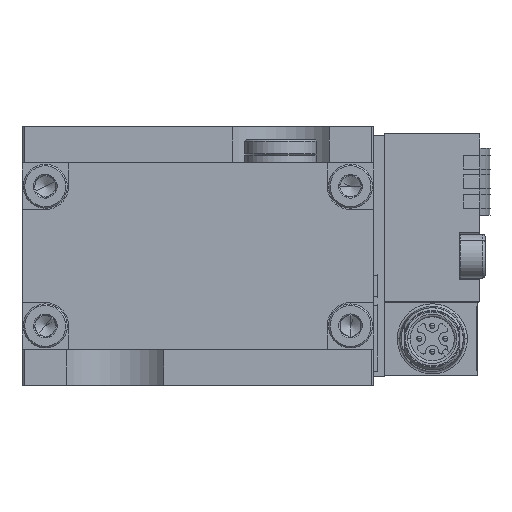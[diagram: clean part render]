
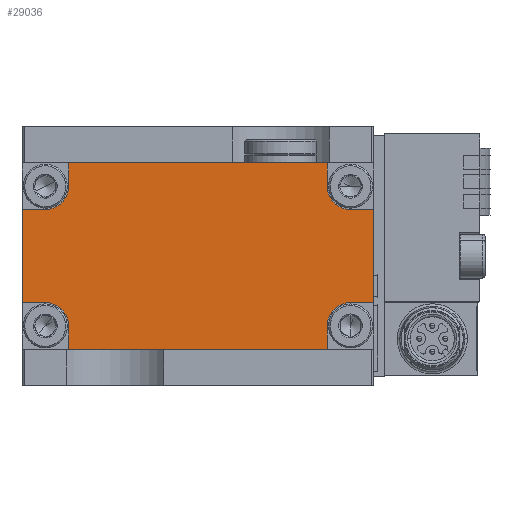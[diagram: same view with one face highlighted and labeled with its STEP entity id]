
A CAD part, front view. The second image highlights one B-rep face of the part: STEP entity #29036.
In plain terms, the highlighted planar face has unit normal (0, -1, 0).
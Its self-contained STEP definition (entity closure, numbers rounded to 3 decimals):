
#932 = CARTESIAN_POINT ( 'NONE',  ( -25., -174.75, -13.5 ) ) ;
#1498 = EDGE_CURVE ( 'NONE', #21921, #27488, #49843, .T. ) ;
#1917 = LINE ( 'NONE', #52799, #53556 ) ;
#2109 = VECTOR ( 'NONE', #72512, 1000. ) ;
#2457 = DIRECTION ( 'NONE',  ( 0., -1., 0. ) ) ;
#3155 = AXIS2_PLACEMENT_3D ( 'NONE', #9729, #54703, #49546 ) ;
#3410 = CIRCLE ( 'NONE', #44645, 4.5 ) ;
#3573 = CIRCLE ( 'NONE', #44796, 4.5 ) ;
#3587 = CARTESIAN_POINT ( 'NONE',  ( -29.5, -174.75, 9. ) ) ;
#3857 = VECTOR ( 'NONE', #13510, 1000. ) ;
#4136 = CARTESIAN_POINT ( 'NONE',  ( 25., -174.75, -13.5 ) ) ;
#5458 = ORIENTED_EDGE ( 'NONE', *, *, #37665, .F. ) ;
#5475 = DIRECTION ( 'NONE',  ( 0., 0., -1. ) ) ;
#5615 = CARTESIAN_POINT ( 'NONE',  ( 25., -174.75, 18. ) ) ;
#6126 = ORIENTED_EDGE ( 'NONE', *, *, #28175, .T. ) ;
#6783 = EDGE_CURVE ( 'NONE', #65116, #27488, #64023, .T. ) ;
#7837 = CARTESIAN_POINT ( 'NONE',  ( -34., -174.75, -9. ) ) ;
#8727 = DIRECTION ( 'NONE',  ( -1., 0., 0. ) ) ;
#8729 = DIRECTION ( 'NONE',  ( -1., 0., 0. ) ) ;
#9729 = CARTESIAN_POINT ( 'NONE',  ( 29.5, -174.75, 13.5 ) ) ;
#10636 = CARTESIAN_POINT ( 'NONE',  ( -34., -174.75, 9. ) ) ;
#11374 = LINE ( 'NONE', #22795, #38578 ) ;
#12752 = LINE ( 'NONE', #61809, #42816 ) ;
#13510 = DIRECTION ( 'NONE',  ( 1., 0., 0. ) ) ;
#13847 = VERTEX_POINT ( 'NONE', #5615 ) ;
#13930 = CARTESIAN_POINT ( 'NONE',  ( 25., -174.75, -18. ) ) ;
#13983 = CARTESIAN_POINT ( 'NONE',  ( -29.5, -174.75, 13.5 ) ) ;
#14630 = CARTESIAN_POINT ( 'NONE',  ( -34., -174.75, -18. ) ) ;
#14867 = VERTEX_POINT ( 'NONE', #23147 ) ;
#15370 = DIRECTION ( 'NONE',  ( 0., 0., -1. ) ) ;
#15960 = VERTEX_POINT ( 'NONE', #10636 ) ;
#16491 = ORIENTED_EDGE ( 'NONE', *, *, #16935, .F. ) ;
#16935 = EDGE_CURVE ( 'NONE', #33633, #35553, #1917, .T. ) ;
#17057 = ORIENTED_EDGE ( 'NONE', *, *, #56164, .F. ) ;
#17812 = VECTOR ( 'NONE', #5475, 1000. ) ;
#18254 = CARTESIAN_POINT ( 'NONE',  ( -25., -174.75, 13.5 ) ) ;
#18338 = VERTEX_POINT ( 'NONE', #40315 ) ;
#18436 = CARTESIAN_POINT ( 'NONE',  ( -25., -174.75, 13.5 ) ) ;
#18884 = DIRECTION ( 'NONE',  ( -1., 0., 0. ) ) ;
#19070 = DIRECTION ( 'NONE',  ( 1., 0., 0. ) ) ;
#19210 = EDGE_LOOP ( 'NONE', ( #30440, #24453, #16491, #5458, #48367, #54233, #44789, #20798, #60570, #29041, #17057, #61041, #65875, #6126, #48612, #48764 ) ) ;
#19428 = DIRECTION ( 'NONE',  ( 0., -1., 0. ) ) ;
#20798 = ORIENTED_EDGE ( 'NONE', *, *, #38899, .F. ) ;
#21837 = CARTESIAN_POINT ( 'NONE',  ( 29.5, -174.75, 9. ) ) ;
#21921 = VERTEX_POINT ( 'NONE', #24592 ) ;
#22081 = DIRECTION ( 'NONE',  ( 1., 0., 0. ) ) ;
#22795 = CARTESIAN_POINT ( 'NONE',  ( -29.5, -174.75, 9. ) ) ;
#23137 = VECTOR ( 'NONE', #15370, 1000. ) ;
#23147 = CARTESIAN_POINT ( 'NONE',  ( 34., -174.75, -9. ) ) ;
#24295 = CIRCLE ( 'NONE', #54873, 4.5 ) ;
#24453 = ORIENTED_EDGE ( 'NONE', *, *, #42727, .F. ) ;
#24592 = CARTESIAN_POINT ( 'NONE',  ( 25., -174.75, -13.5 ) ) ;
#24932 = CARTESIAN_POINT ( 'NONE',  ( -34., -174.75, -18. ) ) ;
#25785 = EDGE_CURVE ( 'NONE', #42955, #60178, #69309, .T. ) ;
#26220 = VERTEX_POINT ( 'NONE', #28328 ) ;
#26442 = CARTESIAN_POINT ( 'NONE',  ( 29.5, -174.75, -13.5 ) ) ;
#26707 = CIRCLE ( 'NONE', #3155, 4.5 ) ;
#27488 = VERTEX_POINT ( 'NONE', #13930 ) ;
#27812 = EDGE_CURVE ( 'NONE', #14867, #28831, #12752, .T. ) ;
#28175 = EDGE_CURVE ( 'NONE', #13847, #60178, #29252, .T. ) ;
#28328 = CARTESIAN_POINT ( 'NONE',  ( 34., -174.75, 9. ) ) ;
#28831 = VERTEX_POINT ( 'NONE', #44215 ) ;
#29036 = ADVANCED_FACE ( 'NONE', ( #35689 ), #47099, .T. ) ;
#29041 = ORIENTED_EDGE ( 'NONE', *, *, #32522, .F. ) ;
#29252 = LINE ( 'NONE', #62822, #35808 ) ;
#29687 = VECTOR ( 'NONE', #72352, 1000. ) ;
#30027 = EDGE_CURVE ( 'NONE', #13847, #18338, #71537, .T. ) ;
#30440 = ORIENTED_EDGE ( 'NONE', *, *, #60737, .F. ) ;
#31217 = LINE ( 'NONE', #14630, #38862 ) ;
#31228 = CARTESIAN_POINT ( 'NONE',  ( -29.5, -174.75, -9. ) ) ;
#31241 = DIRECTION ( 'NONE',  ( 0., -1., 0. ) ) ;
#31375 = VERTEX_POINT ( 'NONE', #21837 ) ;
#32522 = EDGE_CURVE ( 'NONE', #26220, #14867, #65508, .T. ) ;
#32912 = EDGE_CURVE ( 'NONE', #18338, #31375, #26707, .T. ) ;
#33633 = VERTEX_POINT ( 'NONE', #31228 ) ;
#35256 = DIRECTION ( 'NONE',  ( -1., 0., 0. ) ) ;
#35351 = CARTESIAN_POINT ( 'NONE',  ( 29.5, -174.75, 9. ) ) ;
#35553 = VERTEX_POINT ( 'NONE', #7837 ) ;
#35689 = FACE_OUTER_BOUND ( 'NONE', #19210, .T. ) ;
#35808 = VECTOR ( 'NONE', #39983, 1000. ) ;
#37665 = EDGE_CURVE ( 'NONE', #61992, #33633, #3410, .T. ) ;
#38159 = VECTOR ( 'NONE', #19070, 1000. ) ;
#38578 = VECTOR ( 'NONE', #22081, 1000. ) ;
#38862 = VECTOR ( 'NONE', #71054, 1000. ) ;
#38899 = EDGE_CURVE ( 'NONE', #28831, #21921, #3573, .T. ) ;
#39983 = DIRECTION ( 'NONE',  ( -1., 0., 0. ) ) ;
#40315 = CARTESIAN_POINT ( 'NONE',  ( 25., -174.75, 13.5 ) ) ;
#42727 = EDGE_CURVE ( 'NONE', #35553, #15960, #31217, .T. ) ;
#42816 = VECTOR ( 'NONE', #35256, 1000. ) ;
#42955 = VERTEX_POINT ( 'NONE', #18254 ) ;
#44215 = CARTESIAN_POINT ( 'NONE',  ( 29.5, -174.75, -9. ) ) ;
#44645 = AXIS2_PLACEMENT_3D ( 'NONE', #65524, #19428, #8727 ) ;
#44789 = ORIENTED_EDGE ( 'NONE', *, *, #1498, .F. ) ;
#44796 = AXIS2_PLACEMENT_3D ( 'NONE', #26442, #31241, #65151 ) ;
#46447 = DIRECTION ( 'NONE',  ( -1., 0., 0. ) ) ;
#47099 = PLANE ( 'NONE',  #64105 ) ;
#47828 = CARTESIAN_POINT ( 'NONE',  ( -34., -174.75, 18. ) ) ;
#48367 = ORIENTED_EDGE ( 'NONE', *, *, #61163, .F. ) ;
#48612 = ORIENTED_EDGE ( 'NONE', *, *, #25785, .F. ) ;
#48764 = ORIENTED_EDGE ( 'NONE', *, *, #59224, .F. ) ;
#49546 = DIRECTION ( 'NONE',  ( -1., 0., 0. ) ) ;
#49843 = LINE ( 'NONE', #4136, #29687 ) ;
#51455 = LINE ( 'NONE', #932, #2109 ) ;
#52350 = DIRECTION ( 'NONE',  ( 0., 0., 1. ) ) ;
#52799 = CARTESIAN_POINT ( 'NONE',  ( -29.5, -174.75, -9. ) ) ;
#53556 = VECTOR ( 'NONE', #18884, 1000. ) ;
#54233 = ORIENTED_EDGE ( 'NONE', *, *, #6783, .T. ) ;
#54703 = DIRECTION ( 'NONE',  ( 0., -1., 0. ) ) ;
#54873 = AXIS2_PLACEMENT_3D ( 'NONE', #13983, #58948, #46447 ) ;
#55645 = VECTOR ( 'NONE', #52350, 1000. ) ;
#56164 = EDGE_CURVE ( 'NONE', #31375, #26220, #63715, .T. ) ;
#56301 = VERTEX_POINT ( 'NONE', #3587 ) ;
#58948 = DIRECTION ( 'NONE',  ( 0., -1., 0. ) ) ;
#59224 = EDGE_CURVE ( 'NONE', #56301, #42955, #24295, .T. ) ;
#59783 = CARTESIAN_POINT ( 'NONE',  ( -25., -174.75, 18. ) ) ;
#60178 = VERTEX_POINT ( 'NONE', #59783 ) ;
#60570 = ORIENTED_EDGE ( 'NONE', *, *, #27812, .F. ) ;
#60737 = EDGE_CURVE ( 'NONE', #15960, #56301, #11374, .T. ) ;
#61041 = ORIENTED_EDGE ( 'NONE', *, *, #32912, .F. ) ;
#61163 = EDGE_CURVE ( 'NONE', #65116, #61992, #51455, .T. ) ;
#61809 = CARTESIAN_POINT ( 'NONE',  ( 29.5, -174.75, -9. ) ) ;
#61992 = VERTEX_POINT ( 'NONE', #72978 ) ;
#62822 = CARTESIAN_POINT ( 'NONE',  ( 34., -174.75, 18. ) ) ;
#63715 = LINE ( 'NONE', #35351, #38159 ) ;
#64023 = LINE ( 'NONE', #24932, #3857 ) ;
#64105 = AXIS2_PLACEMENT_3D ( 'NONE', #47828, #2457, #8729 ) ;
#65116 = VERTEX_POINT ( 'NONE', #69722 ) ;
#65151 = DIRECTION ( 'NONE',  ( -1., 0., 0. ) ) ;
#65508 = LINE ( 'NONE', #72131, #23137 ) ;
#65524 = CARTESIAN_POINT ( 'NONE',  ( -29.5, -174.75, -13.5 ) ) ;
#65875 = ORIENTED_EDGE ( 'NONE', *, *, #30027, .F. ) ;
#69309 = LINE ( 'NONE', #18436, #55645 ) ;
#69722 = CARTESIAN_POINT ( 'NONE',  ( -25., -174.75, -18. ) ) ;
#71054 = DIRECTION ( 'NONE',  ( 0., 0., 1. ) ) ;
#71537 = LINE ( 'NONE', #72612, #17812 ) ;
#72131 = CARTESIAN_POINT ( 'NONE',  ( 34., -174.75, 18. ) ) ;
#72352 = DIRECTION ( 'NONE',  ( 0., 0., -1. ) ) ;
#72512 = DIRECTION ( 'NONE',  ( 0., 0., 1. ) ) ;
#72612 = CARTESIAN_POINT ( 'NONE',  ( 25., -174.75, 13.5 ) ) ;
#72978 = CARTESIAN_POINT ( 'NONE',  ( -25., -174.75, -13.5 ) ) ;
